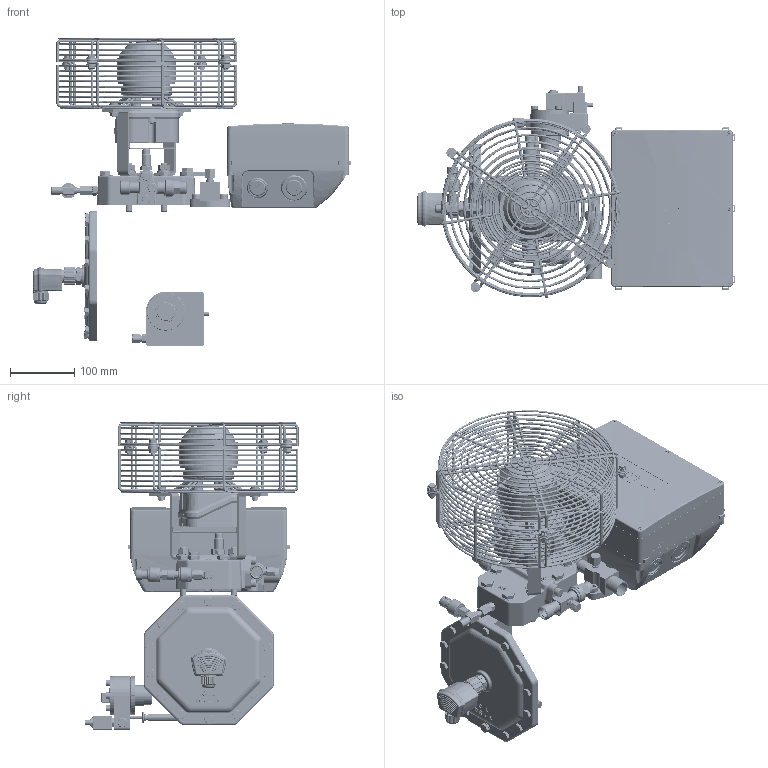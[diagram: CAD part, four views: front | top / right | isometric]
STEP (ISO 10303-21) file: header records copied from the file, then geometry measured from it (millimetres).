
FILE_DESCRIPTION(/* description */ (''),/* implementation_level */ '2;1');
FILE_NAME(/* name */ '2KES-2JES-2HES-2GES-2FES-OPT_Arrangement 1.stp',/* time_stamp */ '2025-09-19T13:15:12+02:00',/* author */ (''),/* organization */ (''),/* preprocessor_version */ 'ST-DEVELOPER v20',/* originating_system */ 'SIEMENS PLM Software NX2406.8100',/* authorisation */ '');
FILE_SCHEMA (('AUTOMOTIVE_DESIGN { 1 0 10303 214 3 1 1 1 }'));
Products named in the file (17): SHUT-OFF-VALVE-DI22-DAXX-DN20; SHUT-OFF-VALVE-DI14-DA7UNF; 2HMP-ND-COMPLETE; 2HMP-HD-COMPLETE; SCREWED-SENSOR-PT1000-M12-1-LG; CYLINDER-HEAD-PT1000; BLIND-FLANGE-HD42; BLIND-FLANGE-HD35; TERMINAL-BOX-CE3-CM-RC-02; BEARING-COVER-OPT-SENSOR-CE1; OIL-LEVEL-MONITORING-OLC-K1; ADDITIONAL-FAN-2KES-2FES; OIL-LEVEL-MONITORING-OLM-IQ-2; CRANKCASE-HEATER-200-260V-120W; 2KES-2JES-2HES-2FES-OPTION; APPLICATION-ENVENLOPE-MONITORI; 2KES-2JES-2HES-2GES-2FES-OPT
Assembly tree (16 placements, depth 3):
  2KES-2JES-2HES-2GES-2FES-OPT
    CRANKCASE-HEATER-200-260V-120W
    OIL-LEVEL-MONITORING-OLM-IQ-2
    ADDITIONAL-FAN-2KES-2FES
    OIL-LEVEL-MONITORING-OLC-K1
    BEARING-COVER-OPT-SENSOR-CE1
    TERMINAL-BOX-CE3-CM-RC-02
    BLIND-FLANGE-HD35
    BLIND-FLANGE-HD42
    APPLICATION-ENVENLOPE-MONITORI
      SCREWED-SENSOR-PT1000-M12-1-LG
      2HMP-HD-COMPLETE
      2HMP-ND-COMPLETE
    CYLINDER-HEAD-PT1000
    2KES-2JES-2HES-2FES-OPTION
      SHUT-OFF-VALVE-DI14-DA7UNF
      SHUT-OFF-VALVE-DI22-DAXX-DN20
Bounding box: 494.9 x 330.68 x 479.16 mm (x, y, z)
Volume: 7181267.5 mm3; surface area: 826808.2 mm2
Topology: 13 solids, 19 shells, 5870 faces, 15116 edges, 9518 vertices
Faces by surface type: plane 2338, cylinder 1240, bspline 787, cone 700, torus 593, extrusion 113, sphere 99
Full cylindrical faces by diameter (mm): 1 x4, 3 x4, 4 x8, 4.2 x8, 4.3 x8, 5 x3, 6 x16, 6.2 x2, 6.8 x3, 7.017 x2, 7.5 x1, 7.9 x1, 8 x2, 8.4 x1, 8.5 x6, 9 x3, 9.5 x3, 9.8 x1, 9.838 x4, 10 x4, 10.287 x1, 10.29 x4, 10.333 x1, 10.5 x3, 10.678 x1, 10.72 x1, 10.907 x2, 11 x6, 11.1 x2, 11.63 x14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
Entity records: 240272 total; most frequent: CARTESIAN_POINT 106792, ORIENTED_EDGE 28404, DIRECTION 23370, EDGE_CURVE 14202, VERTEX_POINT 9260, AXIS2_PLACEMENT_3D 8976, EDGE_LOOP 7508, ADVANCED_FACE 5870
